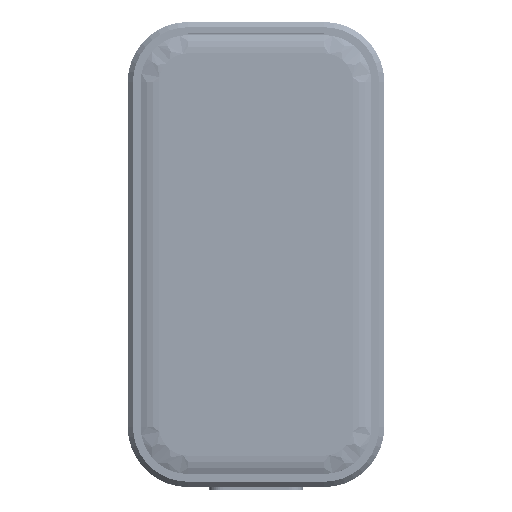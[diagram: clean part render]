
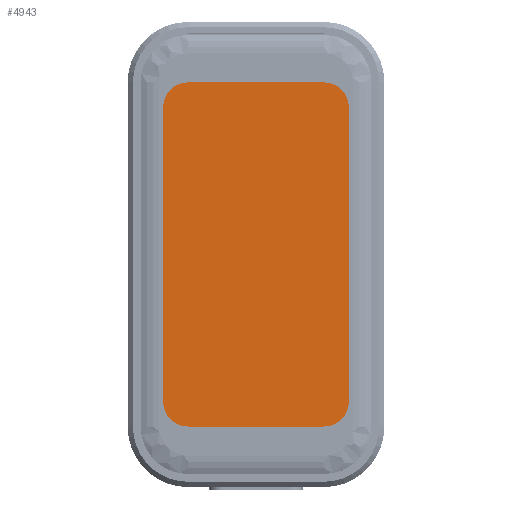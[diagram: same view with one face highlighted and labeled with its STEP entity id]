
A CAD part, top view. The second image highlights one B-rep face of the part: STEP entity #4943.
In plain terms, the highlighted planar face has unit normal (0, 0, 1).
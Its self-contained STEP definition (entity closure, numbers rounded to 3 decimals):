
#3508=CARTESIAN_POINT('',(6.525,14.115,3.2));
#3509=DIRECTION('',(0.,0.,1.));
#3510=DIRECTION('',(1.,0.,0.));
#3511=AXIS2_PLACEMENT_3D('',#3508,#3509,#3510);
#3516=DIRECTION('',(0.,-1.,0.));
#3517=VECTOR('',#3516,28.23);
#3518=CARTESIAN_POINT('',(8.875,14.115,3.2));
#3519=LINE('',#3518,#3517);
#3523=CARTESIAN_POINT('',(6.525,-14.115,3.2));
#3524=DIRECTION('',(0.,0.,1.));
#3525=DIRECTION('',(0.,-1.,0.));
#3526=AXIS2_PLACEMENT_3D('',#3523,#3524,#3525);
#3531=DIRECTION('',(-1.,0.,0.));
#3532=VECTOR('',#3531,13.05);
#3533=CARTESIAN_POINT('',(6.525,-16.465,3.2));
#3534=LINE('',#3533,#3532);
#3538=CARTESIAN_POINT('',(-6.525,-14.115,3.2));
#3539=DIRECTION('',(0.,0.,1.));
#3540=DIRECTION('',(-1.,0.,0.));
#3541=AXIS2_PLACEMENT_3D('',#3538,#3539,#3540);
#3546=DIRECTION('',(0.,1.,0.));
#3547=VECTOR('',#3546,28.23);
#3548=CARTESIAN_POINT('',(-8.875,-14.115,3.2));
#3549=LINE('',#3548,#3547);
#3553=CARTESIAN_POINT('',(-6.525,14.115,3.2));
#3554=DIRECTION('',(0.,0.,1.));
#3555=DIRECTION('',(0.,1.,0.));
#3556=AXIS2_PLACEMENT_3D('',#3553,#3554,#3555);
#3561=DIRECTION('',(1.,0.,0.));
#3562=VECTOR('',#3561,13.05);
#3563=CARTESIAN_POINT('',(-6.525,16.465,3.2));
#3564=LINE('',#3563,#3562);
#3909=CARTESIAN_POINT('',(8.875,14.115,3.2));
#3910=CARTESIAN_POINT('',(6.525,16.465,3.2));
#3911=VERTEX_POINT('',#3909);
#3912=VERTEX_POINT('',#3910);
#3913=CARTESIAN_POINT('',(8.875,-14.115,3.2));
#3914=VERTEX_POINT('',#3913);
#3915=CARTESIAN_POINT('',(6.525,-16.465,3.2));
#3916=VERTEX_POINT('',#3915);
#3917=CARTESIAN_POINT('',(-6.525,-16.465,3.2));
#3918=VERTEX_POINT('',#3917);
#3919=CARTESIAN_POINT('',(-8.875,-14.115,3.2));
#3920=VERTEX_POINT('',#3919);
#3921=CARTESIAN_POINT('',(-8.875,14.115,3.2));
#3922=VERTEX_POINT('',#3921);
#3923=CARTESIAN_POINT('',(-6.525,16.465,3.2));
#3924=VERTEX_POINT('',#3923);
#4921=CARTESIAN_POINT('',(0.,0.,3.2));
#4922=DIRECTION('',(0.,0.,1.));
#4923=DIRECTION('',(1.,0.,0.));
#4924=AXIS2_PLACEMENT_3D('',#4921,#4922,#4923);
#4925=PLANE('',#4924);
#4926=ORIENTED_EDGE('',*,*,#4911,.F.);
#4928=ORIENTED_EDGE('',*,*,#4927,.T.);
#4930=ORIENTED_EDGE('',*,*,#4929,.F.);
#4932=ORIENTED_EDGE('',*,*,#4931,.T.);
#4934=ORIENTED_EDGE('',*,*,#4933,.F.);
#4936=ORIENTED_EDGE('',*,*,#4935,.T.);
#4938=ORIENTED_EDGE('',*,*,#4937,.F.);
#4940=ORIENTED_EDGE('',*,*,#4939,.T.);
#4941=EDGE_LOOP('',(#4926,#4928,#4930,#4932,#4934,#4936,#4938,#4940));
#4942=FACE_OUTER_BOUND('',#4941,.F.);
#4943=ADVANCED_FACE('',(#4942),#4925,.T.);
#3512=CIRCLE('',#3511,2.35);
#3527=CIRCLE('',#3526,2.35);
#3542=CIRCLE('',#3541,2.35);
#3557=CIRCLE('',#3556,2.35);
#4911=EDGE_CURVE('',#3911,#3912,#3512,.T.);
#4927=EDGE_CURVE('',#3911,#3914,#3519,.T.);
#4929=EDGE_CURVE('',#3916,#3914,#3527,.T.);
#4931=EDGE_CURVE('',#3916,#3918,#3534,.T.);
#4933=EDGE_CURVE('',#3920,#3918,#3542,.T.);
#4935=EDGE_CURVE('',#3920,#3922,#3549,.T.);
#4937=EDGE_CURVE('',#3924,#3922,#3557,.T.);
#4939=EDGE_CURVE('',#3924,#3912,#3564,.T.);
